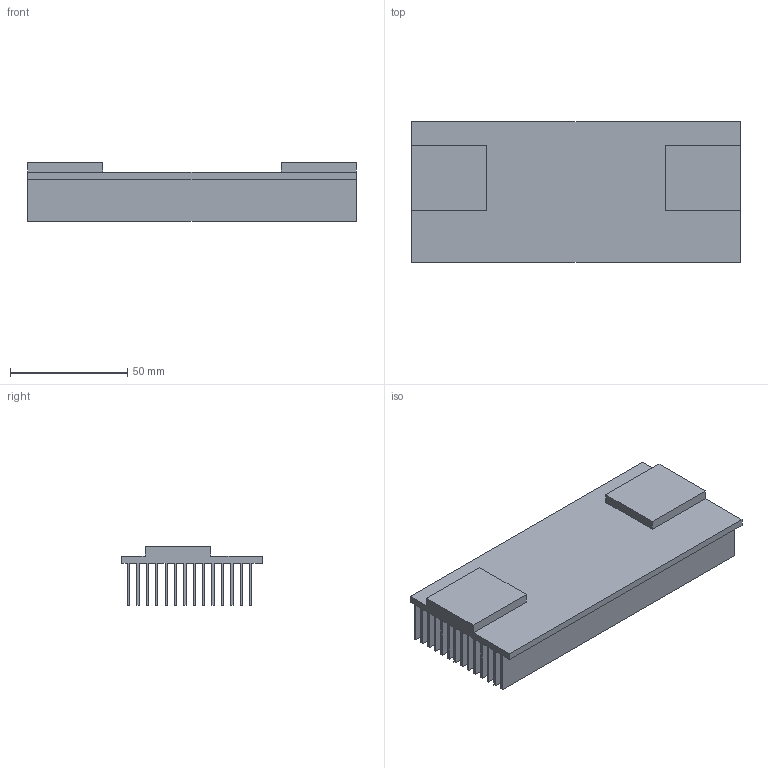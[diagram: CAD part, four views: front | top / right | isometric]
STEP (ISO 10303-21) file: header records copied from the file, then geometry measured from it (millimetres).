
FILE_DESCRIPTION(('Open CASCADE Model'),'2;1');
FILE_NAME('Open CASCADE Shape Model','2026-09-13T17:41:40',('Author'),( 'Open CASCADE'),'Open CASCADE STEP processor 7.8','Open CASCADE 7.8' ,'Unknown');
FILE_SCHEMA(('AUTOMOTIVE_DESIGN { 1 0 10303 214 1 1 1 1 }'));
Length unit declared in the file: millimetre
Products named in the file (1): Open CASCADE STEP translator 7.8 14
Bounding box: 140 x 60 x 25 mm (x, y, z)
Volume: 67648 mm3; surface area: 90024 mm2
Topology: 1 solids, 1 shells, 70 faces, 204 edges, 136 vertices
Faces by surface type: plane 70
Entity records: 4850 total; most frequent: CARTESIAN_POINT 899, DIRECTION 674, LINE 532, VECTOR 532, ORIENTED_EDGE 408, PCURVE 408, DEFINITIONAL_REPRESENTATION 408, EDGE_CURVE 204
